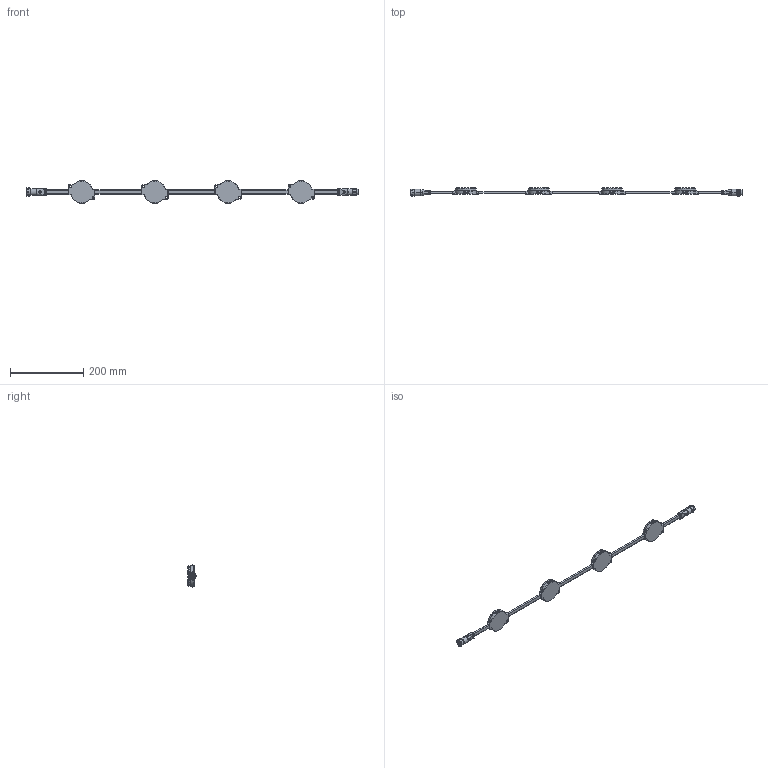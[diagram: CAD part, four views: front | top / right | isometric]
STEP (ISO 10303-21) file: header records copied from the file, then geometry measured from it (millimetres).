
FILE_DESCRIPTION (( 'STEP AP214' ), '1' );
FILE_NAME ('DIGI MODULE ES12 - 5pin.STEP', '2026-01-05T08:59:49', ( '' ), ( '' ), 'SwSTEP 2.0', 'SolidWorks 2025', '' );
FILE_SCHEMA (( 'AUTOMOTIVE_DESIGN' ));
Length unit declared in the file: millimetre
Products named in the file (6): DiGi Module ES12 - Cover; M16 5p Flat mold - Female; M16 5p Flat mold - Male; DIGI MODULE ES12 - 5pin; DiGi Module ES12 - Body; Part31^DIGI MODULE ES12
Assembly tree (11 placements, depth 2):
  DIGI MODULE ES12 - 5pin
    DiGi Module ES12 - Body  x4
    DiGi Module ES12 - Cover  x4
    Part31^DIGI MODULE ES12
    M16 5p Flat mold - Female
    M16 5p Flat mold - Male
Bounding box: 907.71 x 22.14 x 61.6 mm (x, y, z)
Volume: 197879.9 mm3; surface area: 99146.3 mm2
Topology: 55 solids, 55 shells, 1771 faces, 4194 edges, 2604 vertices
Faces by surface type: plane 633, cylinder 529, bspline 328, cone 216, torus 43, sphere 22
Full cylindrical faces by diameter (mm): 9.2 x1, 11.1 x1, 11.8 x1, 14.25 x1, 14.8 x1, 15.2 x1, 49.3 x4, 53.35 x8
Entity records: 72481 total; most frequent: CARTESIAN_POINT 37346, ORIENTED_EDGE 5150, DIRECTION 4008, EDGE_CURVE 2575, VERTEX_POINT 1588, AXIS2_PLACEMENT_3D 1536, EDGE_LOOP 1219, FACE_OUTER_BOUND 1129
